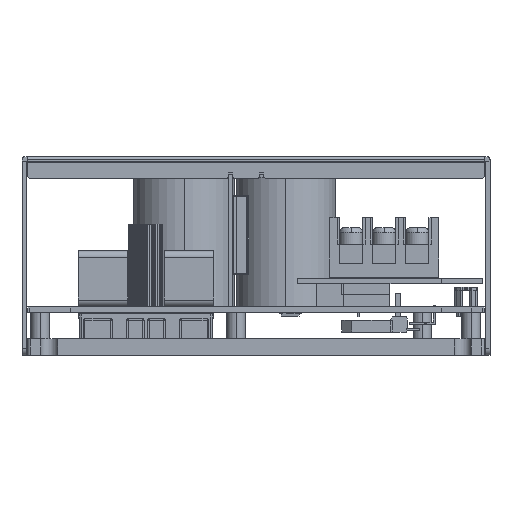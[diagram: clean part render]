
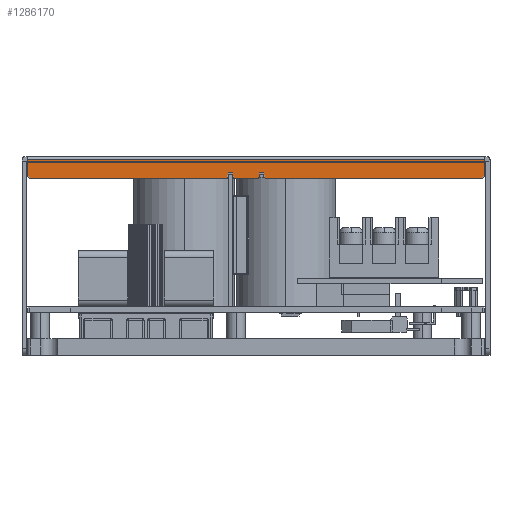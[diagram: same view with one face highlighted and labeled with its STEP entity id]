
A CAD part, front view. The second image highlights one B-rep face of the part: STEP entity #1286170.
In plain terms, the highlighted planar face has unit normal (0, -1, 0).
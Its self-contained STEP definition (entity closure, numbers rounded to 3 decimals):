
#885910=CARTESIAN_POINT('',(-3.777,-54.79,153.8));
#885920=VERTEX_POINT('',#885910);
#886100=CARTESIAN_POINT('',(134.423,-54.79,153.8));
#886110=VERTEX_POINT('',#886100);
#886140=CARTESIAN_POINT('',(4.629,-54.79,153.8));
#886150=DIRECTION('',(-1.,0.,0.));
#886160=VECTOR('',#886150,1.);
#886170=LINE('',#886140,#886160);
#886180=EDGE_CURVE('',#886110,#885920,#886170,.T.);
#1232600=CARTESIAN_POINT('',(58.723,-54.79,148.2));
#1232610=VERTEX_POINT('',#1232600);
#1232640=CARTESIAN_POINT('',(4.629,-54.79,148.2));
#1232650=DIRECTION('',(-1.,0.,0.));
#1232660=VECTOR('',#1232650,1.);
#1232670=LINE('',#1232640,#1232660);
#1232680=CARTESIAN_POINT('',(65.923,-54.79,148.2));
#1232690=VERTEX_POINT('',#1232680);
#1232700=EDGE_CURVE('',#1232690,#1232610,#1232670,.T.);
#1268240=CARTESIAN_POINT('',(56.423,-54.79,148.7));
#1268250=DIRECTION('',(0.,1.,0.));
#1268260=DIRECTION('',(1.,0.,0.));
#1268270=AXIS2_PLACEMENT_3D('',#1268240,#1268250,#1268260);
#1268280=CIRCLE('',#1268270,0.5);
#1268290=CARTESIAN_POINT('',(56.923,-54.79,148.7));
#1268300=VERTEX_POINT('',#1268290);
#1268310=CARTESIAN_POINT('',(56.423,-54.79,148.2));
#1268320=VERTEX_POINT('',#1268310);
#1268330=EDGE_CURVE('',#1268300,#1268320,#1268280,.T.);
#1284880=CARTESIAN_POINT('',(0.129,-54.79,
323.182));
#1284890=DIRECTION('',(0.,-1.,0.));
#1284900=DIRECTION('',(0.,0.,-1.));
#1284910=AXIS2_PLACEMENT_3D('',#1284880,#1284890,#1284900);
#1284920=PLANE('',#1284910);
#1284930=ORIENTED_EDGE('',*,*,#1268330,.F.);
#1284940=CARTESIAN_POINT('',(4.629,-54.79,148.2));
#1284950=DIRECTION('',(-1.,0.,0.));
#1284960=VECTOR('',#1284950,1.);
#1284970=LINE('',#1284940,#1284960);
#1284980=CARTESIAN_POINT('',(-2.777,-54.79,148.2));
#1284990=VERTEX_POINT('',#1284980);
#1285000=EDGE_CURVE('',#1268320,#1284990,#1284970,.T.);
#1285010=ORIENTED_EDGE('',*,*,#1285000,.F.);
#1285020=CARTESIAN_POINT('',(-2.777,-54.79,149.2));
#1285030=DIRECTION('',(0.,1.,0.));
#1285040=DIRECTION('',(1.,0.,0.));
#1285050=AXIS2_PLACEMENT_3D('',#1285020,#1285030,#1285040);
#1285060=CIRCLE('',#1285050,1.);
#1285070=CARTESIAN_POINT('',(-3.777,-54.79,149.2));
#1285080=VERTEX_POINT('',#1285070);
#1285090=EDGE_CURVE('',#1284990,#1285080,#1285060,.T.);
#1285100=ORIENTED_EDGE('',*,*,#1285090,.F.);
#1285110=CARTESIAN_POINT('',(-3.777,-54.79,154.7));
#1285120=DIRECTION('',(0.,0.,1.));
#1285130=VECTOR('',#1285120,1.);
#1285140=LINE('',#1285110,#1285130);
#1285150=EDGE_CURVE('',#1285080,#885920,#1285140,.T.);
#1285160=ORIENTED_EDGE('',*,*,#1285150,.F.);
#1285170=ORIENTED_EDGE('',*,*,#886180,.T.);
#1285180=CARTESIAN_POINT('',(134.423,-54.79,154.7));
#1285190=DIRECTION('',(0.,0.,1.));
#1285200=VECTOR('',#1285190,1.);
#1285210=LINE('',#1285180,#1285200);
#1285220=CARTESIAN_POINT('',(134.423,-54.79,149.2));
#1285230=VERTEX_POINT('',#1285220);
#1285240=EDGE_CURVE('',#1285230,#886110,#1285210,.T.);
#1285250=ORIENTED_EDGE('',*,*,#1285240,.T.);
#1285260=CARTESIAN_POINT('',(133.423,-54.79,149.2));
#1285270=DIRECTION('',(0.,-1.,0.));
#1285280=DIRECTION('',(-1.,0.,0.));
#1285290=AXIS2_PLACEMENT_3D('',#1285260,#1285270,#1285280);
#1285300=CIRCLE('',#1285290,1.);
#1285310=CARTESIAN_POINT('',(133.423,-54.79,148.2));
#1285320=VERTEX_POINT('',#1285310);
#1285330=EDGE_CURVE('',#1285320,#1285230,#1285300,.T.);
#1285340=ORIENTED_EDGE('',*,*,#1285330,.T.);
#1285350=CARTESIAN_POINT('',(4.629,-54.79,148.2));
#1285360=DIRECTION('',(-1.,0.,0.));
#1285370=VECTOR('',#1285360,1.);
#1285380=LINE('',#1285350,#1285370);
#1285390=CARTESIAN_POINT('',(68.223,-54.79,148.2));
#1285400=VERTEX_POINT('',#1285390);
#1285410=EDGE_CURVE('',#1285320,#1285400,#1285380,.T.);
#1285420=ORIENTED_EDGE('',*,*,#1285410,.F.);
#1285430=CARTESIAN_POINT('',(68.223,-54.79,148.7));
#1285440=DIRECTION('',(0.,1.,0.));
#1285450=DIRECTION('',(1.,0.,0.));
#1285460=AXIS2_PLACEMENT_3D('',#1285430,#1285440,#1285450);
#1285470=CIRCLE('',#1285460,0.5);
#1285480=CARTESIAN_POINT('',(67.723,-54.79,148.7));
#1285490=VERTEX_POINT('',#1285480);
#1285500=EDGE_CURVE('',#1285400,#1285490,#1285470,.T.);
#1285510=ORIENTED_EDGE('',*,*,#1285500,.F.);
#1285520=CARTESIAN_POINT('',(67.723,-54.79,154.7));
#1285530=DIRECTION('',(0.,0.,-1.));
#1285540=VECTOR('',#1285530,1.);
#1285550=LINE('',#1285520,#1285540);
#1285560=CARTESIAN_POINT('',(67.723,-54.79,
149.8));
#1285570=VERTEX_POINT('',#1285560);
#1285580=EDGE_CURVE('',#1285570,#1285490,#1285550,.T.);
#1285590=ORIENTED_EDGE('',*,*,#1285580,.T.);
#1285600=CARTESIAN_POINT('',(4.629,-54.79,
149.8));
#1285610=DIRECTION('',(-1.,0.,0.));
#1285620=VECTOR('',#1285610,1.);
#1285630=LINE('',#1285600,#1285620);
#1285640=CARTESIAN_POINT('',(66.423,-54.79,
149.8));
#1285650=VERTEX_POINT('',#1285640);
#1285660=EDGE_CURVE('',#1285570,#1285650,#1285630,.T.);
#1285670=ORIENTED_EDGE('',*,*,#1285660,.F.);
#1285680=CARTESIAN_POINT('',(66.423,-54.79,154.7));
#1285690=DIRECTION('',(0.,0.,1.));
#1285700=VECTOR('',#1285690,1.);
#1285710=LINE('',#1285680,#1285700);
#1285720=CARTESIAN_POINT('',(66.423,-54.79,148.7));
#1285730=VERTEX_POINT('',#1285720);
#1285740=EDGE_CURVE('',#1285730,#1285650,#1285710,.T.);
#1285750=ORIENTED_EDGE('',*,*,#1285740,.T.);
#1285760=CARTESIAN_POINT('',(65.923,-54.79,148.7));
#1285770=DIRECTION('',(0.,-1.,0.));
#1285780=DIRECTION('',(-1.,0.,0.));
#1285790=AXIS2_PLACEMENT_3D('',#1285760,#1285770,#1285780);
#1285800=CIRCLE('',#1285790,0.5);
#1285810=EDGE_CURVE('',#1232690,#1285730,#1285800,.T.);
#1285820=ORIENTED_EDGE('',*,*,#1285810,.T.);
#1285830=ORIENTED_EDGE('',*,*,#1232700,.F.);
#1285840=CARTESIAN_POINT('',(58.723,-54.79,148.7));
#1285850=DIRECTION('',(0.,1.,0.));
#1285860=DIRECTION('',(1.,0.,0.));
#1285870=AXIS2_PLACEMENT_3D('',#1285840,#1285850,#1285860);
#1285880=CIRCLE('',#1285870,0.5);
#1285890=CARTESIAN_POINT('',(58.223,-54.79,148.7));
#1285900=VERTEX_POINT('',#1285890);
#1285910=EDGE_CURVE('',#1232610,#1285900,#1285880,.T.);
#1285920=ORIENTED_EDGE('',*,*,#1285910,.F.);
#1285930=CARTESIAN_POINT('',(58.223,-54.79,154.7));
#1285940=DIRECTION('',(0.,0.,1.));
#1285950=VECTOR('',#1285940,1.);
#1285960=LINE('',#1285930,#1285950);
#1285970=CARTESIAN_POINT('',(58.223,-54.79,
149.8));
#1285980=VERTEX_POINT('',#1285970);
#1285990=EDGE_CURVE('',#1285900,#1285980,#1285960,.T.);
#1286000=ORIENTED_EDGE('',*,*,#1285990,.F.);
#1286010=CARTESIAN_POINT('',(4.629,-54.79,
149.8));
#1286020=DIRECTION('',(1.,0.,0.));
#1286030=VECTOR('',#1286020,1.);
#1286040=LINE('',#1286010,#1286030);
#1286050=CARTESIAN_POINT('',(56.923,-54.79,
149.8));
#1286060=VERTEX_POINT('',#1286050);
#1286070=EDGE_CURVE('',#1286060,#1285980,#1286040,.T.);
#1286080=ORIENTED_EDGE('',*,*,#1286070,.T.);
#1286090=CARTESIAN_POINT('',(56.923,-54.79,154.7));
#1286100=DIRECTION('',(0.,0.,-1.));
#1286110=VECTOR('',#1286100,1.);
#1286120=LINE('',#1286090,#1286110);
#1286130=EDGE_CURVE('',#1286060,#1268300,#1286120,.T.);
#1286140=ORIENTED_EDGE('',*,*,#1286130,.F.);
#1286150=EDGE_LOOP('',(#1286140,#1286080,#1286000,#1285920,#1285830,
#1285820,#1285750,#1285670,#1285590,#1285510,#1285420,#1285340,#1285250,
#1285170,#1285160,#1285100,#1285010,#1284930));
#1286160=FACE_OUTER_BOUND('',#1286150,.T.);
#1286170=ADVANCED_FACE('',(#1286160),#1284920,.T.);
